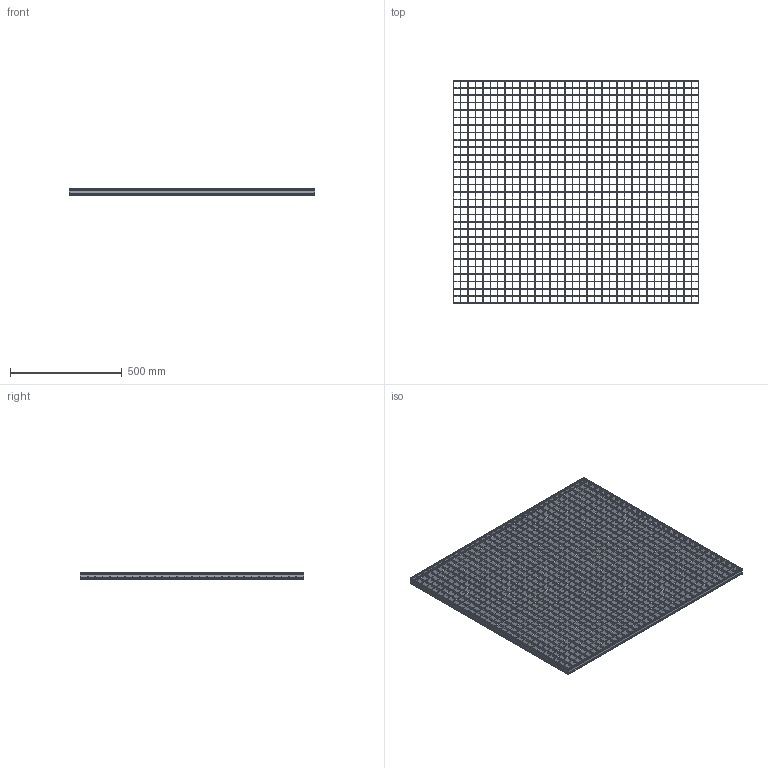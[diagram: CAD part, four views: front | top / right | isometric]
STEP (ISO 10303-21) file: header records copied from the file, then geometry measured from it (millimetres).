
FILE_DESCRIPTION(/* description */ ('STEP AP242','CAx-IF Rec.Pracs.---Representation and Presentation of Product Manufacturing Information (PMI)---4.0---2014-10-13','CAx-IF Rec.Pracs.---3D Tessellated Geometry---0.4---2014-09-14','2;1'),/* implementation_level */ '2;1');
FILE_NAME(/* name */ 'Lichtgitter_Pressure_locked_gratings P 330-33-3-1-1-1100-1000_(350_0)',/* time_stamp */ '2026-04-22T16:03:11+02:00',/* author */ ('License CC BY-ND 4.0'),/* organization */ ('CADENAS'),/* preprocessor_version */ 'ST-DEVELOPER v20',/* originating_system */ 'PARTsolutions',/* authorisation */ ' ');
FILE_SCHEMA (('AP242_MANAGED_MODEL_BASED_3D_ENGINEERING_MIM_LF { 1 0 10303 442 1 1 4 }'));
Length unit declared in the file: millimetre
Products named in the file (5): Lichtgitter_Pressure_locked_gratings P 330-33-3-1-1-1100-1000_(350_0); Lichtgitter P 330-33-3_(Pressroste_350_1_1000_1100)_VERTICAL; Lichtgitter P 330-33-3_(Pressroste_350_1_1000_1100)_HORIZONTAL_C; Lichtgitter P 330-33-3_(Pressroste_350_1_1000_1100)_HORIZONTAL; Lichtgitter P 330-33-3_(Pressroste_350_1_1000_1100)_VERTICAL_C
Assembly tree (65 placements, depth 2):
  Lichtgitter_Pressure_locked_gratings P 330-33-3-1-1-1100-1000_(350_0)
    Lichtgitter P 330-33-3_(Pressroste_350_1_1000_1100)_VERTICAL  x2
    Lichtgitter P 330-33-3_(Pressroste_350_1_1000_1100)_HORIZONTAL_C  x29
    Lichtgitter P 330-33-3_(Pressroste_350_1_1000_1100)_HORIZONTAL  x2
    Lichtgitter P 330-33-3_(Pressroste_350_1_1000_1100)_VERTICAL_C  x32
Bounding box: 1100 x 1000 x 30 mm (x, y, z)
Volume: 3801096 mm3; surface area: 3171049.1 mm2
Topology: 65 solids, 65 shells, 4150 faces, 12060 edges, 8040 vertices
Faces by surface type: plane 4118, cylinder 32
Entity records: 6267 total; most frequent: CARTESIAN_POINT 1082, DIRECTION 1020, ORIENTED_EDGE 1008, EDGE_CURVE 504, LINE 472, VECTOR 472, VERTEX_POINT 336, AXIS2_PLACEMENT_3D 274
